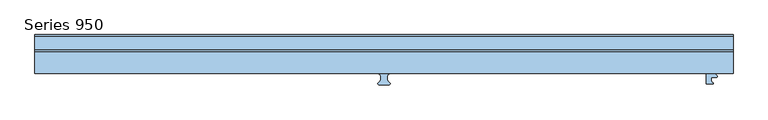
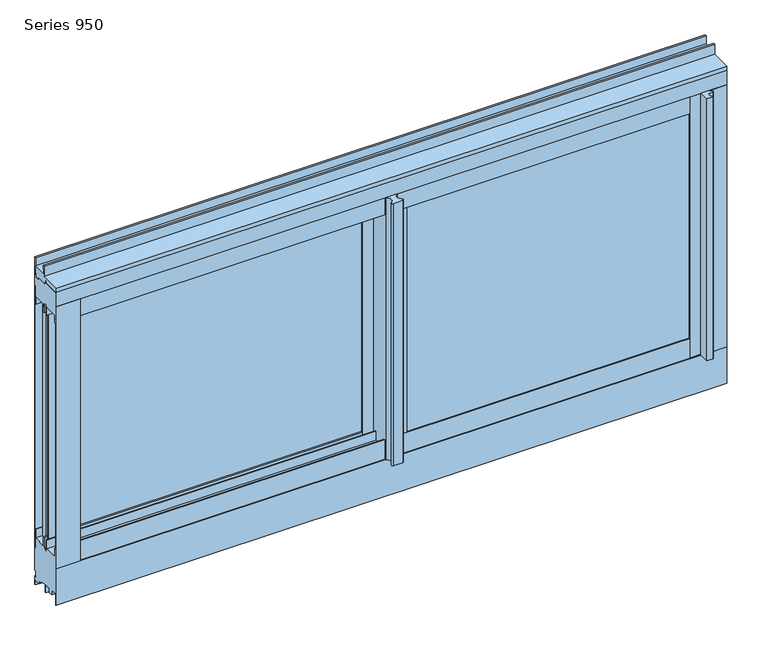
"""IFC4 building model written with IfcOpenShell, lengths in millimetres: window geometry, Window-Boyd_Aluminum-Slider-950_Series : Series 950."""

from ifc_helpers import new_model, si_unit, point, frame, frame_2d, origin, place, context, project, spatial, polyline, circle_curve, trimmed, segment, composite_curve, outline, extrude, source, transform, mapped, element, save
from ifc_brep_helpers import plane_surface, cylinder_surface, revolved_surface, advanced_brep


def series_950_13ffbd45(model_context):
    return source(origin(), model_context, "Body", "SolidModel", [
        extrude(outline(polyline([(841.9434044, -19.0144272), (841.9434044, -22.1894272), (21.6312029, -22.1894272), (21.6312029, -19.0144272), (841.9434044, -19.0144272)])), frame((0.0, 0.0, 1049.8507764), z_axis=(0.0, 0.0, 1.0), x_axis=(1.0, 0.0, 0.0)), (0.0, 0.0, 1.0), 697.0213392),
        extrude(outline(polyline([(841.9434044, -49.5597489), (841.9434044, -52.7347489), (21.6312029, -52.7347489), (21.6312029, -49.5597489), (841.9434044, -49.5597489)])), frame((0.0, 0.0, 1049.8507764), z_axis=(0.0, 0.0, 1.0), x_axis=(1.0, 0.0, 0.0)), (0.0, 0.0, 1.0), 697.0213392),
        extrude(outline(polyline([(-21.6722934, 33.5982709), (-21.6722934, 30.4232709), (-841.944483, 30.4232709), (-841.944483, 33.5982709), (-21.6722934, 33.5982709)])), frame((0.0, 0.0, 1049.8507764), z_axis=(0.0, 0.0, 1.0), x_axis=(1.0, 0.0, 0.0)), (0.0, 0.0, 1.0), 697.0213392),
        extrude(outline(polyline([(-21.6722934, 3.0529492), (-21.6722934, -0.1220508), (-841.944483, -0.1220508), (-841.944483, 3.0529492), (-21.6722934, 3.0529492)])), frame((0.0, 0.0, 1049.8507764), z_axis=(0.0, 0.0, 1.0), x_axis=(1.0, 0.0, 0.0)), (0.0, 0.0, 1.0), 697.0184207),
        extrude(outline(polyline([(38.1269018, 1815.2804012), (32.0460094, 1815.2804012), (32.0460094, 1803.5377368), (22.0384094, 1803.5377368), (22.0384094, 1808.5161368), (-7.1946611, 1808.5161368), (-7.1946611, 1815.2804012), (-61.4410982, 1815.2804012), (-61.4410982, 1818.4372777), (-63.4730982, 1818.4372777), (-63.4730982, 1829.4889895), (-6.1960985, 1829.4889895), (-6.1960985, 1858.0893895), (-1.8780985, 1858.0893895), (-1.8780985, 1846.6085895), (-4.1640985, 1846.6085895), (-4.1640985, 1835.2451923), (34.2703433, 1835.2451923), (34.2703433, 1858.0893895), (38.1269018, 1858.0893895), (38.1269018, 1815.2804012)])), frame((-914.4, 0.0, 0.0), z_axis=(1.0, 0.0, 0.0), x_axis=(0.0, 1.0, 0.0)), (0.0, 0.0, 1.0), 1828.8),
        extrude(outline(composite_curve([segment(polyline([(30.1343473, 36.2668296), (30.1343473, 33.7178398), (43.5414812, 33.7178398), (43.5414812, 26.0978398), (30.1343473, 26.0978398), (30.1343473, -16.2094844), (43.5414812, -16.2094844), (43.5414812, -18.1652844), (21.6312029, -18.1652844), (21.6312029, -56.5692724), (32.2119452, -56.5692724), (32.2119452, -54.2926472), (43.666668, -54.2926472), (43.666668, -58.6317259), (15.875, -58.6317259), (15.875, -63.5458897)]), True, "CONTINUOUS"), segment(trimmed(circle_curve(frame_2d((21.8332034, -76.0202312)), 13.8242318), [point((15.875, -63.5458897))], [point((14.8767098, -87.9666357))], True, "CARTESIAN"), True, "CONTINUOUS"), segment(trimmed(circle_curve(frame_2d((12.7, -90.2780334)), 3.175), [point((14.8767098, -87.9666357))], [point((12.7, -93.4530334))], False, "CARTESIAN"), True, "CONTINUOUS"), segment(polyline([(12.7, -93.4530334), (-12.7, -93.4530334)]), True, "CONTINUOUS"), segment(trimmed(circle_curve(frame_2d((-12.7, -90.2780334)), 3.175), [point((-12.7, -93.4530334))], [point((-14.8767098, -87.9666357))], False, "CARTESIAN"), True, "CONTINUOUS"), segment(trimmed(circle_curve(frame_2d((-21.8279412, -76.0201805)), 13.8216283), [point((-14.8767098, -87.9666357))], [point((-15.875, -63.5462116))], True, "CARTESIAN"), True, "CONTINUOUS"), segment(polyline([(-15.875, -63.5462116), (-15.875, -6.152834), (-45.3585188, -6.152834), (-45.3585188, -1.834834), (-33.0100527, -1.834834), (-33.0100527, -4.120834), (-21.6722934, -4.120834), (-21.6722934, 34.3110296), (-45.3585188, 34.3110296), (-45.3585188, 36.2668296), (30.1343473, 36.2668296)]), True, "CONTINUOUS")], self_intersect=False)), frame((0.0, 0.0, 1020.2672), z_axis=(0.0, 0.0, 1.0), x_axis=(1.0, 0.0, 0.0)), (0.0, 0.0, 1.0), 755.8659),
        advanced_brep(
        [(914.4, 36.195, 1776.1331), (914.4, 38.1762, 1776.1331), (884.8620327, 38.1762, 1776.1331), (884.8620327, 36.1599671, 1776.1331), (819.7364327, 36.1599671, 1776.1331), (819.7364327, 24.2150705, 1776.1331), (832.7920327, 24.2150705, 1776.1331), (832.7920327, -11.8520445, 1776.1331), (846.1629, -11.8520445, 1776.1331), (846.1629, -16.7614392, 1776.1331), (817.5625, -16.7614392, 1776.1331), (817.5625, -18.7172392, 1776.1331), (840.407783, -18.7172392, 1776.1331), (840.407783, -57.1516807, 1776.1331), (829.0433, -57.1516807, 1776.1331), (829.0433, -54.9457474, 1776.1331), (817.5625, -54.9457474, 1776.1331), (817.5625, -59.1836807, 1776.1331), (844.5881, -59.1836807, 1776.1331), (844.5881, -90.6293095, 1776.1331), (861.4215741, -90.6293095, 1776.1331), (862.0638766, -88.3561099, 1776.1331), (857.4405, -82.2453604, 1776.1331), (857.4405, -73.7989932, 1776.1331), (870.6279601, -73.7989932, 1776.1331), (872.2982877, -69.7664655, 1776.1331), (866.5136111, -63.9817889, 1776.1331), (914.4, -63.9817889, 1776.1331), (914.4, -61.4426, 1776.1331), (886.8432327, -61.4426, 1776.1331), (886.8432327, -51.5112, 1776.1331), (891.0073249, -51.5112, 1776.1331), (891.0073249, -39.6903974, 1776.1331), (897.5785278, -39.6903974, 1776.1331), (897.5785278, -29.337, 1776.1331), (886.8432327, -29.337, 1776.1331), (886.8432327, -13.6906, 1776.1331), (908.4586327, -13.6906, 1776.1331), (908.4586327, -11.7094, 1776.1331), (886.8432327, -11.7094, 1776.1331), (886.8432327, 11.8618, 1776.1331), (891.0073249, 11.8618, 1776.1331), (891.0073249, 20.3454, 1776.1331), (896.3936327, 20.3454, 1776.1331), (896.3936327, 36.195, 1776.1331), (914.4, 36.195, 1020.2672), (896.3936327, 36.195, 1020.2672), (896.3936327, 20.3454, 1020.2672), (891.0073249, 20.3454, 1020.2672), (891.0073249, 11.8618, 1020.2672), (886.8432327, 11.8618, 1020.2672), (886.8432327, -11.7094, 1020.2672), (908.4586327, -11.7094, 1020.2672), (908.4586327, -13.6906, 1020.2672), (886.8432327, -13.6906, 1020.2672), (886.8432327, -29.337, 1020.2672), (897.5785278, -29.337, 1020.2672), (897.5785278, -39.6903974, 1020.2672), (891.0073249, -39.6903974, 1020.2672), (891.0073249, -51.5112, 1020.2672), (886.8432327, -51.5112, 1020.2672), (886.8432327, -61.4426, 1020.2672), (914.4, -61.4426, 1020.2672), (914.4, -63.9817889, 1020.2672), (866.5136111, -63.9817889, 1020.2672), (872.2982877, -69.7664655, 1020.2672), (870.6279601, -73.7989932, 1020.2672), (857.4405, -73.7989932, 1020.2672), (857.4405, -82.2453604, 1020.2672), (862.0651765, -88.356478, 1020.2672), (861.4215741, -90.6293095, 1020.2672), (844.5881, -90.6293095, 1020.2672), (844.5881, -59.1836807, 1020.2672), (817.5625, -59.1836807, 1020.2672), (817.5625, -54.9457474, 1020.2672), (829.0433, -54.9457474, 1020.2672), (829.0433, -57.1516807, 1020.2672), (840.407783, -57.1516807, 1020.2672), (840.407783, -18.7172392, 1020.2672), (817.5625, -18.7172392, 1020.2672), (817.5625, -16.7614392, 1020.2672), (846.1629, -16.7614392, 1020.2672), (846.1629, -11.8520445, 1020.2672), (832.7920327, -11.8520445, 1020.2672), (832.7920327, 24.2150705, 1020.2672), (819.7364327, 24.2150705, 1020.2672), (819.7364327, 36.1599671, 1020.2672), (884.8620327, 36.1599671, 1020.2672), (884.8620327, 38.1762, 1020.2672), (914.4, 38.1762, 1020.2672)],
        [
            (0, 1),
            (1, 2),
            (2, 3),
            (3, 4),
            (4, 5),
            (5, 6),
            (6, 7),
            (7, 8),
            (8, 9),
            (9, 10),
            (10, 11),
            (11, 12),
            (12, 13),
            (13, 14),
            (14, 15),
            (15, 16),
            (16, 17),
            (17, 18),
            (18, 19),
            (19, 20),
            (20, 21, circle_curve(frame((861.7427246, -89.4927095, 1776.1331), z_axis=(0.0, 0.0, 1.0), x_axis=(0.2730098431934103, 0.9620112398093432, 0.0)), 1.1811)),
            (21, 22, circle_curve(frame((863.7905, -82.2453604, 1776.1331), z_axis=(0.0, 0.0, -1.0), x_axis=(-1.0, 0.0, 0.0)), 6.35)),
            (22, 23),
            (23, 24),
            (24, 25, circle_curve(frame((870.6279601, -71.4367932, 1776.1331), z_axis=(0.0, 0.0, 1.0), x_axis=(0.7071067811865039, 0.7071067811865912, 0.0)), 2.3622)),
            (25, 26),
            (26, 27),
            (27, 28),
            (28, 29),
            (29, 30),
            (30, 31),
            (31, 32),
            (32, 33),
            (33, 34),
            (34, 35),
            (35, 36),
            (36, 37),
            (37, 38),
            (38, 39),
            (39, 40),
            (40, 41),
            (41, 42),
            (42, 43),
            (43, 44),
            (44, 0),
            (45, 46),
            (46, 47),
            (47, 48),
            (48, 49),
            (49, 50),
            (50, 51),
            (51, 52),
            (52, 53),
            (53, 54),
            (54, 55),
            (55, 56),
            (56, 57),
            (57, 58),
            (58, 59),
            (59, 60),
            (60, 61),
            (61, 62),
            (62, 63),
            (63, 64),
            (64, 65),
            (65, 66, circle_curve(frame((870.6279601, -71.4367932, 1020.2672), z_axis=(0.0, 0.0, -1.0), x_axis=(0.7071067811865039, 0.7071067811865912, 0.0)), 2.3622)),
            (66, 67),
            (67, 68),
            (68, 69, circle_curve(frame((863.7905, -82.2453604, 1020.2672), z_axis=(0.0, 0.0, 1.0), x_axis=(-1.0, 0.0, 0.0)), 6.35)),
            (69, 70, circle_curve(frame((861.7427246, -89.4927095, 1020.2672), z_axis=(0.0, 0.0, -1.0), x_axis=(0.2730098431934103, 0.9620112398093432, 0.0)), 1.1811)),
            (70, 71),
            (71, 72),
            (72, 73),
            (73, 74),
            (74, 75),
            (75, 76),
            (76, 77),
            (77, 78),
            (78, 79),
            (79, 80),
            (80, 81),
            (81, 82),
            (82, 83),
            (83, 84),
            (84, 85),
            (85, 86),
            (86, 87),
            (87, 88),
            (88, 89),
            (89, 45),
            (0, 45),
            (89, 1),
            (88, 2),
            (87, 3),
            (86, 4),
            (85, 5),
            (84, 6),
            (83, 7),
            (82, 8),
            (81, 9),
            (80, 10),
            (79, 11),
            (78, 12),
            (77, 13),
            (76, 14),
            (75, 15),
            (74, 16),
            (73, 17),
            (72, 18),
            (71, 19),
            (70, 20),
            (69, 21),
            (68, 22),
            (67, 23),
            (66, 24),
            (65, 25),
            (64, 26),
            (63, 27),
            (62, 28),
            (61, 29),
            (60, 30),
            (59, 31),
            (58, 32),
            (57, 33),
            (56, 34),
            (55, 35),
            (54, 36),
            (53, 37),
            (52, 38),
            (51, 39),
            (50, 40),
            (49, 41),
            (48, 42),
            (47, 43),
            (46, 44),
        ],
        [
            plane_surface(frame((914.4, -12.7, 1776.1331), z_axis=(0.0, 0.0, 1.0), x_axis=(0.0, 1.0, 0.0))),
            plane_surface(frame((914.4, -12.7, 1020.2672), z_axis=(0.0, 0.0, -1.0), x_axis=(0.0, 1.0, 0.0))),
            plane_surface(frame((914.4, 36.195, 1776.1331), z_axis=(1.0, 0.0, 0.0), x_axis=(0.0, 0.0, -1.0))),
            plane_surface(frame((914.4, 38.1762, 1776.1331), z_axis=(0.0, 1.0, 0.0), x_axis=(0.0, 0.0, -1.0))),
            plane_surface(frame((884.8620327, 38.1762, 1776.1331), z_axis=(-1.0, 0.0, 0.0), x_axis=(0.0, 0.0, -1.0))),
            plane_surface(frame((884.8620327, 36.1599671, 1776.1331), z_axis=(0.0, 1.0, 0.0), x_axis=(0.0, 0.0, -1.0))),
            plane_surface(frame((819.7364327, 36.1599671, 1776.1331), z_axis=(-1.0, 0.0, 0.0), x_axis=(0.0, 0.0, -1.0))),
            plane_surface(frame((819.7364327, 24.2150705, 1776.1331), z_axis=(0.0, -1.0, 0.0), x_axis=(0.0, 0.0, -1.0))),
            plane_surface(frame((832.7920327, 24.2150705, 1776.1331), z_axis=(-1.0, 0.0, 0.0), x_axis=(0.0, 0.0, -1.0))),
            plane_surface(frame((832.7920327, -11.8520445, 1776.1331), z_axis=(0.0, -1.0, 0.0), x_axis=(0.0, 0.0, -1.0))),
            plane_surface(frame((846.1629, -11.8520445, 1776.1331), z_axis=(-1.0, 0.0, 0.0), x_axis=(0.0, 0.0, -1.0))),
            plane_surface(frame((846.1629, -16.7614392, 1776.1331), z_axis=(0.0, 1.0, 0.0), x_axis=(0.0, 0.0, -1.0))),
            plane_surface(frame((817.5625, -16.7614392, 1776.1331), z_axis=(-1.0, 0.0, 0.0), x_axis=(0.0, 0.0, -1.0))),
            plane_surface(frame((817.5625, -18.7172392, 1776.1331), z_axis=(0.0, -1.0, 0.0), x_axis=(0.0, 0.0, -1.0))),
            plane_surface(frame((840.407783, -18.7172392, 1776.1331), z_axis=(-1.0, 0.0, 0.0), x_axis=(0.0, 0.0, -1.0))),
            plane_surface(frame((840.407783, -57.1516807, 1776.1331), z_axis=(0.0, 1.0, 0.0), x_axis=(0.0, 0.0, -1.0))),
            plane_surface(frame((829.0433, -57.1516807, 1776.1331), z_axis=(1.0, 0.0, 0.0), x_axis=(0.0, 0.0, -1.0))),
            plane_surface(frame((829.0433, -54.9457474, 1776.1331), z_axis=(0.0, 1.0, 0.0), x_axis=(0.0, 0.0, -1.0))),
            plane_surface(frame((817.5625, -54.9457474, 1776.1331), z_axis=(-1.0, 0.0, 0.0), x_axis=(0.0, 0.0, -1.0))),
            plane_surface(frame((817.5625, -59.1836807, 1776.1331), z_axis=(0.0, -1.0, 0.0), x_axis=(0.0, 0.0, -1.0))),
            plane_surface(frame((844.5881, -59.1836807, 1776.1331), z_axis=(-1.0, 0.0, 0.0), x_axis=(0.0, 0.0, -1.0))),
            plane_surface(frame((844.5881, -90.6293095, 1776.1331), z_axis=(0.0, -1.0, 0.0), x_axis=(0.0, 0.0, -1.0))),
            cylinder_surface(frame((861.7427246, -89.4927095, 1776.1331), z_axis=(0.0, 0.0, 1.0000000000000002), x_axis=(0.2730098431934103, 0.9620112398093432, 0.0)), 1.1811),
            revolved_surface(polyline([(857.4404999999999, -82.2453604, 1020.2672), (857.4404999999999, -82.2453604, 1776.1331)]), (863.7905, -82.2453604, 1776.1331), (0.0, 0.0, -1.0)),
            plane_surface(frame((857.4405, -82.2453604, 1776.1331), z_axis=(1.0, 0.0, 0.0), x_axis=(0.0, 0.0, -1.0))),
            plane_surface(frame((857.4405, -73.7989932, 1776.1331), z_axis=(0.0, -1.0, 0.0), x_axis=(0.0, 0.0, -1.0))),
            cylinder_surface(frame((870.6279601, -71.4367932, 1776.1331), z_axis=(0.0, 0.0, 1.0), x_axis=(0.7071067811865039, 0.7071067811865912, 0.0)), 2.3622),
            plane_surface(frame((872.2982877, -69.7664655, 1776.1331), z_axis=(0.7071067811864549, 0.7071067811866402, 0.0), x_axis=(0.0, 0.0, -1.0))),
            plane_surface(frame((866.5136111, -63.9817889, 1776.1331), z_axis=(0.0, -1.0, 0.0), x_axis=(0.0, 0.0, -1.0))),
            plane_surface(frame((914.4, -63.9817889, 1776.1331), z_axis=(1.0, 0.0, 0.0), x_axis=(0.0, 0.0, -1.0))),
            plane_surface(frame((914.4, -61.4426, 1776.1331), z_axis=(0.0, 1.0, 0.0), x_axis=(0.0, 0.0, -1.0))),
            plane_surface(frame((886.8432327, -61.4426, 1776.1331), z_axis=(1.0, 0.0, 0.0), x_axis=(0.0, 0.0, -1.0))),
            plane_surface(frame((886.8432327, -51.5112, 1776.1331), z_axis=(0.0, -1.0, 0.0), x_axis=(0.0, 0.0, -1.0))),
            plane_surface(frame((891.0073249, -51.5112, 1776.1331), z_axis=(1.0, 0.0, 0.0), x_axis=(0.0, 0.0, -1.0))),
            plane_surface(frame((891.0073249, -39.6903974, 1776.1331), z_axis=(0.0, -1.0, 0.0), x_axis=(0.0, 0.0, -1.0))),
            plane_surface(frame((897.5785278, -39.6903974, 1776.1331), z_axis=(1.0, 0.0, 0.0), x_axis=(0.0, 0.0, -1.0))),
            plane_surface(frame((897.5785278, -29.337, 1776.1331), z_axis=(0.0, 1.0, 0.0), x_axis=(0.0, 0.0, -1.0))),
            plane_surface(frame((886.8432327, -29.337, 1776.1331), z_axis=(1.0, 0.0, 0.0), x_axis=(0.0, 0.0, -1.0))),
            plane_surface(frame((886.8432327, -13.6906, 1776.1331), z_axis=(0.0, -1.0, 0.0), x_axis=(0.0, 0.0, -1.0))),
            plane_surface(frame((908.4586327, -13.6906, 1776.1331), z_axis=(1.0, 0.0, 0.0), x_axis=(0.0, 0.0, -1.0))),
            plane_surface(frame((908.4586327, -11.7094, 1776.1331), z_axis=(0.0, 1.0, 0.0), x_axis=(0.0, 0.0, -1.0))),
            plane_surface(frame((886.8432327, -11.7094, 1776.1331), z_axis=(1.0, 0.0, 0.0), x_axis=(0.0, 0.0, -1.0))),
            plane_surface(frame((886.8432327, 11.8618, 1776.1331), z_axis=(0.0, -1.0, 0.0), x_axis=(0.0, 0.0, -1.0))),
            plane_surface(frame((891.0073249, 11.8618, 1776.1331), z_axis=(1.0, 0.0, 0.0), x_axis=(0.0, 0.0, -1.0))),
            plane_surface(frame((891.0073249, 20.3454, 1776.1331), z_axis=(0.0, -1.0, 0.0), x_axis=(0.0, 0.0, -1.0))),
            plane_surface(frame((896.3936327, 20.3454, 1776.1331), z_axis=(1.0, 0.0, 0.0), x_axis=(0.0, 0.0, -1.0))),
            plane_surface(frame((896.3936327, 36.195, 1776.1331), z_axis=(0.0, -1.0, 0.0), x_axis=(0.0, 0.0, -1.0))),
        ],
        [
            (0, [[1, 2, 3, 4, 5, 6, 7, 8, 9, 10, 11, 12, 13, 14, 15, 16, 17, 18, 19, 20, 21, 22, 23, 24, 25, 26, 27, 28, 29, 30, 31, 32, 33, 34, 35, 36, 37, 38, 39, 40, 41, 42, 43, 44, 45]]),
            (1, [[46, 47, 48, 49, 50, 51, 52, 53, 54, 55, 56, 57, 58, 59, 60, 61, 62, 63, 64, 65, 66, 67, 68, 69, 70, 71, 72, 73, 74, 75, 76, 77, 78, 79, 80, 81, 82, 83, 84, 85, 86, 87, 88, 89, 90]]),
            (2, [[-1, 91, -90, 92]]),
            (3, [[-2, -92, -89, 93]]),
            (4, [[-3, -93, -88, 94]]),
            (5, [[-4, -94, -87, 95]]),
            (6, [[-5, -95, -86, 96]]),
            (7, [[-6, -96, -85, 97]]),
            (8, [[-7, -97, -84, 98]]),
            (9, [[-8, -98, -83, 99]]),
            (10, [[-9, -99, -82, 100]]),
            (11, [[-10, -100, -81, 101]]),
            (12, [[-11, -101, -80, 102]]),
            (13, [[-12, -102, -79, 103]]),
            (14, [[-13, -103, -78, 104]]),
            (15, [[-14, -104, -77, 105]]),
            (16, [[-15, -105, -76, 106]]),
            (17, [[-16, -106, -75, 107]]),
            (18, [[-17, -107, -74, 108]]),
            (19, [[-18, -108, -73, 109]]),
            (20, [[-19, -109, -72, 110]]),
            (21, [[-20, -110, -71, 111]]),
            (22, [[-21, -111, -70, 112]]),
            (23, [[-22, -112, -69, 113]]),
            (24, [[-23, -113, -68, 114]]),
            (25, [[-24, -114, -67, 115]]),
            (26, [[-25, -115, -66, 116]]),
            (27, [[-26, -116, -65, 117]]),
            (28, [[-27, -117, -64, 118]]),
            (29, [[-28, -118, -63, 119]]),
            (30, [[-29, -119, -62, 120]]),
            (31, [[-30, -120, -61, 121]]),
            (32, [[-31, -121, -60, 122]]),
            (33, [[-32, -122, -59, 123]]),
            (34, [[-33, -123, -58, 124]]),
            (35, [[-34, -124, -57, 125]]),
            (36, [[-35, -125, -56, 126]]),
            (37, [[-36, -126, -55, 127]]),
            (38, [[-37, -127, -54, 128]]),
            (39, [[-38, -128, -53, 129]]),
            (40, [[-39, -129, -52, 130]]),
            (41, [[-40, -130, -51, 131]]),
            (42, [[-41, -131, -50, 132]]),
            (43, [[-42, -132, -49, 133]]),
            (44, [[-43, -133, -48, 134]]),
            (45, [[-44, -134, -47, 135]]),
            (46, [[-45, -135, -46, -91]]),
        ],
    ),
        extrude(outline(polyline([(-849.7316, -63.5392744), (-914.4, -63.5392744), (-914.4, -61.5580744), (-886.206, -61.5580744), (-886.206, -51.6266744), (-890.3700923, -51.6266744), (-890.3700923, -43.7018744), (-886.206, -43.7018744), (-886.206, -39.8058717), (-896.9412952, -39.8058717), (-896.9412952, -29.4524744), (-886.206, -29.4524744), (-886.206, -13.8060744), (-907.8214, -13.8060744), (-907.8214, -11.8248744), (-886.206, -11.8248744), (-886.206, 11.7463256), (-890.3700923, 11.7463256), (-890.3700923, 20.2299256), (-895.7564, 20.2299256), (-895.7564, 36.0795256), (-914.4, 36.0795256), (-914.4, 38.0607256), (-884.2248, 38.0607256), (-884.2248, 36.1599671), (-819.15, 36.1599671), (-819.15, 34.2041671), (-841.944483, 34.2041671), (-841.944483, -4.2302744), (-830.58, -4.2302744), (-830.58, -1.9442744), (-819.15, -1.9442744), (-819.15, -6.2622744), (-847.6996, -6.2622744), (-847.6996, -12.1499479), (-884.2248, -12.1499479), (-884.2248, -61.5072744), (-849.7316, -61.5072744), (-849.7316, -63.5392744)])), frame((0.0, 0.0, 1020.2672), z_axis=(0.0, 0.0, 1.0), x_axis=(1.0, 0.0, 0.0)), (0.0, 0.0, 1.0), 755.8659),
        extrude(outline(polyline([(36.2754415, 1724.025), (34.2434415, 1724.025), (34.2434415, 1746.8691971), (-4.191, 1746.8691971), (-4.191, 1735.5058), (-1.905, 1735.5058), (-1.905, 1724.025), (-6.223, 1724.025), (-6.223, 1752.6254), (-16.3411649, 1752.6254), (-16.3411649, 1724.025), (-18.2969649, 1724.025), (-18.2969649, 1746.8681099), (-56.7314064, 1746.8681099), (-56.7314064, 1735.5047128), (-54.4454064, 1735.5047128), (-54.4454064, 1724.025), (-59.1444064, 1724.025), (-59.1444064, 1782.7233128), (-61.468, 1782.7233128), (-61.468, 1776.1331), (-63.5, 1776.1331), (-63.5, 1828.8), (-61.468, 1828.8), (-61.468, 1815.2999), (-13.5636, 1815.2999), (-13.5636, 1820.8978883), (-11.9888, 1820.8978883), (-11.9888, 1815.2999), (-8.001, 1815.2999), (-8.001, 1813.2679), (-10.0786736, 1813.2679), (-10.0786736, 1808.5356356), (22.0115076, 1808.5356356), (22.0115076, 1803.5572356), (32.0191076, 1803.5572356), (32.0191076, 1808.7134356), (36.068, 1808.7134356), (36.068, 1828.8), (38.1, 1828.8), (38.1, 1752.6254), (36.2754415, 1752.6254), (36.2754415, 1724.025)])), frame((-914.4, 0.0, 0.0), z_axis=(1.0, 0.0, 0.0), x_axis=(0.0, 1.0, 0.0)), (0.0, 0.0, 1.0), 1828.8),
        extrude(outline(polyline([(38.1, 954.0494), (33.3248, 954.0494), (33.3248, 938.9872), (38.1, 938.9872), (38.1, 914.4), (36.0148513, 914.4), (36.0148513, 927.1254), (17.5607072, 927.1254), (17.5607072, 936.625), (7.1374, 936.625), (4.1250529, 940.8541795), (-11.5951, 942.2295146), (-11.5951, 920.9786), (-13.9573, 920.9786), (-13.9573, 942.4361803), (-28.956, 943.7483966), (-28.956, 930.5125048), (-40.2237974, 930.5125048), (-40.2237974, 944.7342011), (-61.468, 946.592828), (-61.468, 914.4), (-63.5, 914.4), (-63.5, 1020.2672), (-61.468, 1020.2672), (-61.468, 1013.9944872), (-59.1836807, 1013.9944872), (-59.1836807, 1074.7375), (-54.9457474, 1074.7375), (-54.9457474, 1049.8486038), (-18.3362392, 1049.8486038), (-18.3362392, 1074.7375), (-16.3804392, 1074.7375), (-16.3804392, 1044.0924), (-6.2622744, 1044.0924), (-6.2622744, 1074.7375), (-1.9442744, 1074.7375), (-1.9442744, 1049.8486038), (34.2041668, 1049.8486038), (34.2041668, 1074.7375), (36.1599671, 1074.7375), (36.1599671, 1043.9146), (38.1, 1043.9146), (38.1, 954.0494)])), frame((-914.4, 0.0, 0.0), z_axis=(1.0, 0.0, 0.0), x_axis=(0.0, 1.0, 0.0)), (0.0, 0.0, 1.0), 1828.8),
    ])


if __name__ == "__main__":
    model = new_model("IFC4")
    model_context = context("Model", 3, world=origin())
    ifc_project = project(units=[si_unit("LENGTHUNIT", "METRE", prefix="MILLI")], contexts=[model_context])
    site = spatial("IfcSite", under=ifc_project)
    building = spatial("IfcBuilding", under=site)
    placement = place(None, origin())
    series_950_shape = series_950_13ffbd45(model_context)
    element("IfcWindow", 1, ObjectType="Window-Boyd_Aluminum-Slider-950_Series : Series 950", at=placement, inside=building, context=model_context, shape_type="MappedRepresentation", body=[
        mapped(series_950_shape, transform((0.0, 0.0, 0.0), x_axis=(1.0, 0.0, 0.0), y_axis=(0.0, 1.0, 0.0), z_axis=(0.0, 0.0, 1.0))),
    ])
    save(model, "model.ifc")
